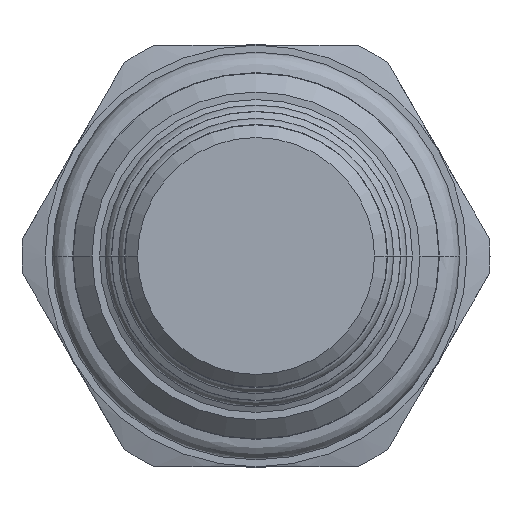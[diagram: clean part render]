
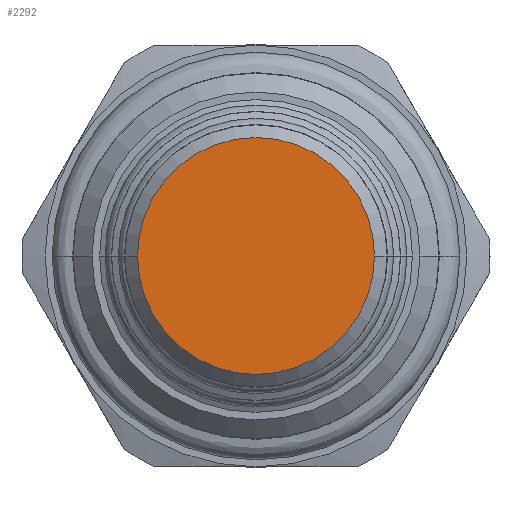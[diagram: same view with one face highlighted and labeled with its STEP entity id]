
A CAD part, front view. The second image highlights one B-rep face of the part: STEP entity #2292.
In plain terms, the highlighted planar face has unit normal (0, -1, 0).
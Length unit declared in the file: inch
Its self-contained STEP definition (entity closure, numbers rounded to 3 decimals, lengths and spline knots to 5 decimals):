
#774=CARTESIAN_POINT('',(0.,-1.813,0.));
#775=DIRECTION('',(0.,-1.,0.));
#776=DIRECTION('',(1.,0.,0.));
#777=AXIS2_PLACEMENT_3D('',#774,#775,#776);
#788=CARTESIAN_POINT('',(0.,-1.813,0.));
#789=DIRECTION('',(0.,1.,0.));
#790=DIRECTION('',(1.,0.,0.));
#791=AXIS2_PLACEMENT_3D('',#788,#789,#790);
#1097=CARTESIAN_POINT('',(0.281,-1.813,0.));
#1098=CARTESIAN_POINT('',(-0.281,-1.813,0.));
#1099=VERTEX_POINT('',#1097);
#1100=VERTEX_POINT('',#1098);
#2283=CARTESIAN_POINT('',(0.,-1.813,0.));
#2284=DIRECTION('',(0.,-1.,0.));
#2285=DIRECTION('',(-1.,0.,0.));
#2286=AXIS2_PLACEMENT_3D('',#2283,#2284,#2285);
#2287=PLANE('',#2286);
#2288=ORIENTED_EDGE('',*,*,#2263,.F.);
#2289=ORIENTED_EDGE('',*,*,#2277,.T.);
#2290=EDGE_LOOP('',(#2288,#2289));
#2291=FACE_OUTER_BOUND('',#2290,.F.);
#2292=ADVANCED_FACE('',(#2291),#2287,.T.);
#778=CIRCLE('',#777,0.281);
#792=CIRCLE('',#791,0.281);
#2263=EDGE_CURVE('',#1099,#1100,#778,.T.);
#2277=EDGE_CURVE('',#1099,#1100,#792,.T.);
